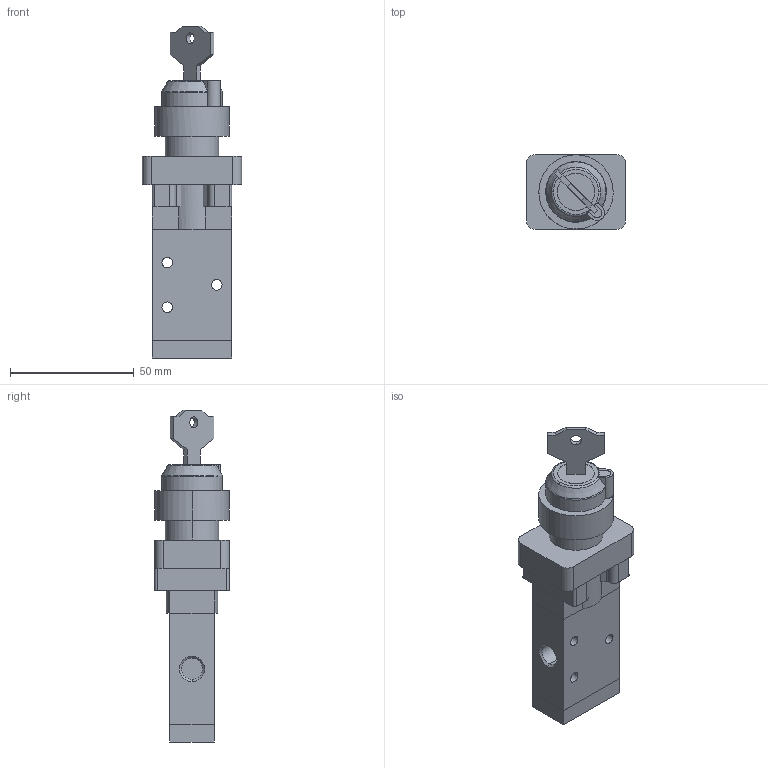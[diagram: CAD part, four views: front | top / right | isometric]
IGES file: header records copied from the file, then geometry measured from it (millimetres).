
Global section: file name: No Iges File Name specified; native system: AutoDesk Inventor R11.0; preprocessor: AutoDesk Inventor Iges Exporter R11.0; author: No Author specified; organization: No Organization specified; date: 20061219.113909; units: millimetre
Bounding box: 40 x 30.02 x 134 mm (x, y, z)
Volume: 71049.6 mm3; surface area: 16436.5 mm2
Topology: 2 solids, 2 shells, 122 faces, 317 edges, 207 vertices
Faces by surface type: plane 68, cylinder 20, revolution 15, bspline 15, torus 3, cone 1
